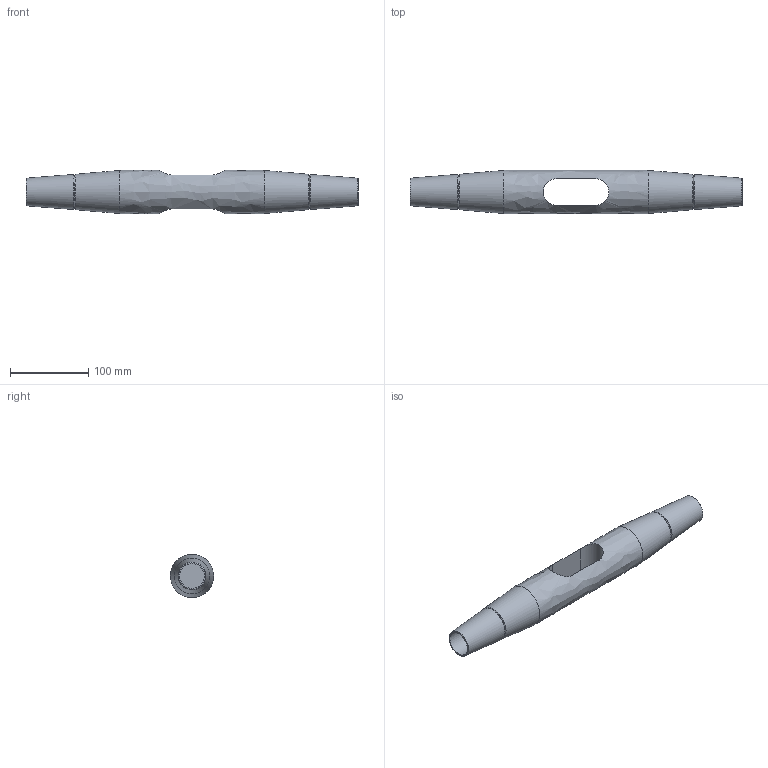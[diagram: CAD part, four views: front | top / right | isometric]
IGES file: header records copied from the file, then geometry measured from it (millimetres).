
Global section: file name: 520-030-KMF; native system: Autodesk Inventor 2016; preprocessor: unknown; author: Administrator; date: 20200702.132119; units: centimetre
Bounding box: 424 x 55 x 55 mm (x, y, z)
Volume: 616038.4 mm3; surface area: 81230.2 mm2
Topology: 1 solids, 1 shells, 21 faces, 55 edges, 38 vertices
Faces by surface type: bspline 21
